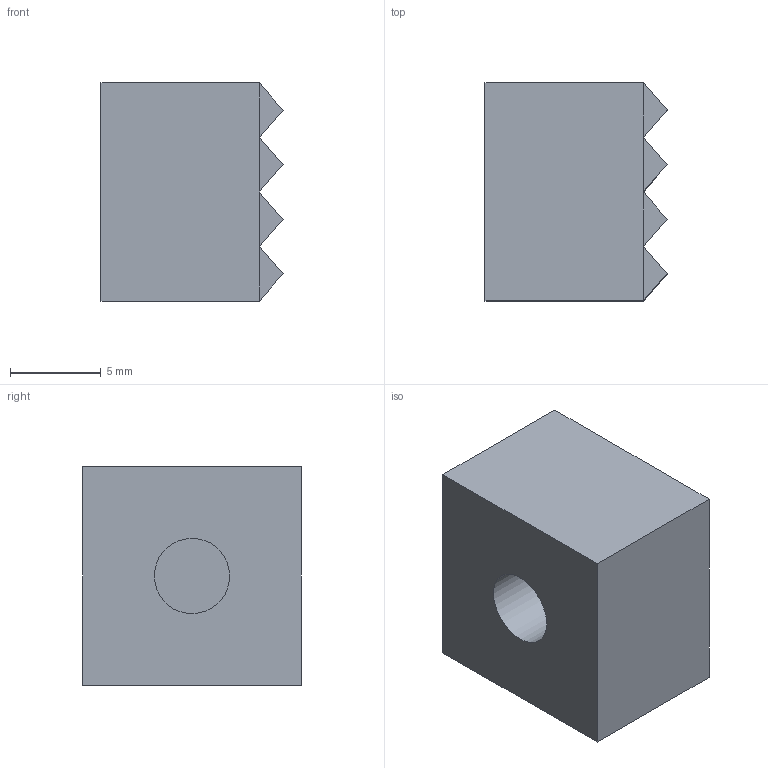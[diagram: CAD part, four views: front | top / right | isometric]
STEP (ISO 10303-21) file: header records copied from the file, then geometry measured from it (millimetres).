
FILE_DESCRIPTION(('CATIA V5 STEP Exchange'),'2;1');
FILE_NAME('\\kjf-102\KJF_TC\Hydraulic_Clamp\Standard\TOGGLE PAD\CP-60\CP-60.stp','2024-07-09T01:56:03+00:00',('none'),('none'),'CATIA Version 5 Release 19 SP 9 (IN-10)','CATIA V5 STEP AP214','none');
FILE_SCHEMA(('AUTOMOTIVE_DESIGN { 1 0 10303 214 1 1 1 1 }'));
Length unit declared in the file: millimetre
Products named in the file (1): TCP-10-A
Bounding box: 10 x 12 x 12 mm (x, y, z)
Volume: 1228.1 mm3; surface area: 836.8 mm2
Topology: 1 solids, 1 shells, 72 faces, 118 edges, 49 vertices
Faces by surface type: plane 70, cylinder 2
Entity records: 1302 total; most frequent: ORIENTED_EDGE 236, CARTESIAN_POINT 191, DIRECTION 164, EDGE_CURVE 118, VECTOR 114, LINE 114, EDGE_LOOP 73, ADVANCED_FACE 72
